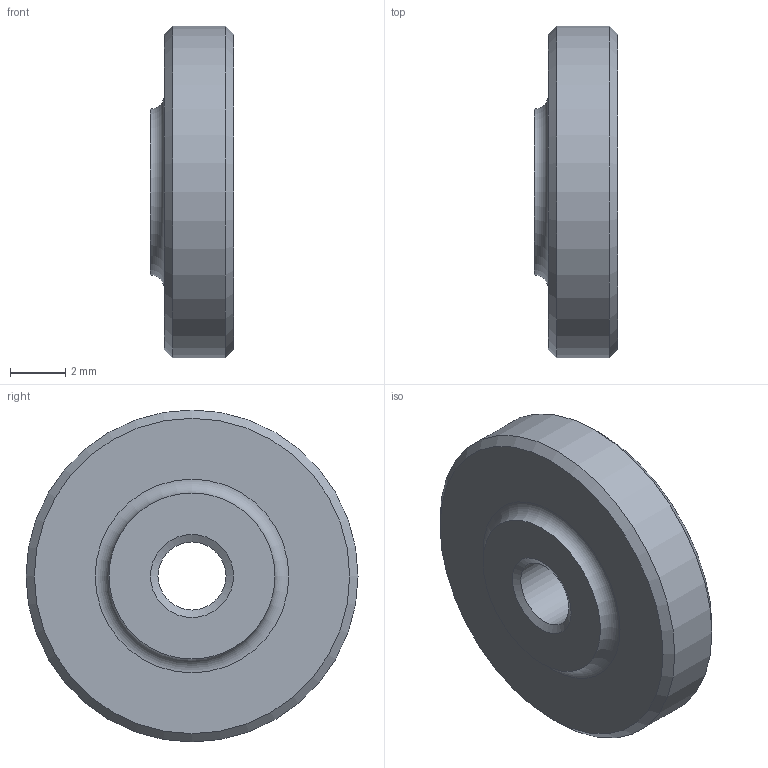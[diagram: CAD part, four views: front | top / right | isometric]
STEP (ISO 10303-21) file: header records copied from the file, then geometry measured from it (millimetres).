
FILE_DESCRIPTION(/* description */ ('Rändelmutter M3 - DIN 467','CAx-IF Rec.Pracs.---Representation and Presentation of Product Manufacturing Information (PMI)---4.0---2014-10-13'),/* implementation_level */ '2;1');
FILE_NAME(/* name */ 'G:\Alle CAD Daten\CAMTEC_2020_Pack and Go\PSU CPS-i3000 - CPS-i2000\2530166.stp',/* time_stamp */ '2020-09-20T10:49:40+02:00',/* author */ ('rryba'),/* organization */ (''),/* preprocessor_version */ 'ST-DEVELOPER v18.1',/* originating_system */ 'Autodesk Inventor 2021',/* authorisation */ '');
FILE_SCHEMA (('AP242_MANAGED_MODEL_BASED_3D_ENGINEERING_MIM_LF { 1 0 10303 442 1 1 4 }'));
Length unit declared in the file: millimetre
Products named in the file (1): 2530166
Bounding box: 3 x 12 x 12 mm (x, y, z)
Volume: 280.2 mm3; surface area: 325.3 mm2
Topology: 1 solids, 1 shells, 9 faces, 29 edges, 31 vertices
Faces by surface type: cone 3, plane 3, cylinder 2, torus 1
Full cylindrical faces by diameter (mm): 2.459 x1, 12 x1
Entity records: 379 total; most frequent: CARTESIAN_POINT 62, DIRECTION 59, ORIENTED_EDGE 36, AXIS2_PLACEMENT_3D 27, EDGE_CURVE 18, CIRCLE 17, STYLED_ITEM 15, EDGE_LOOP 12
